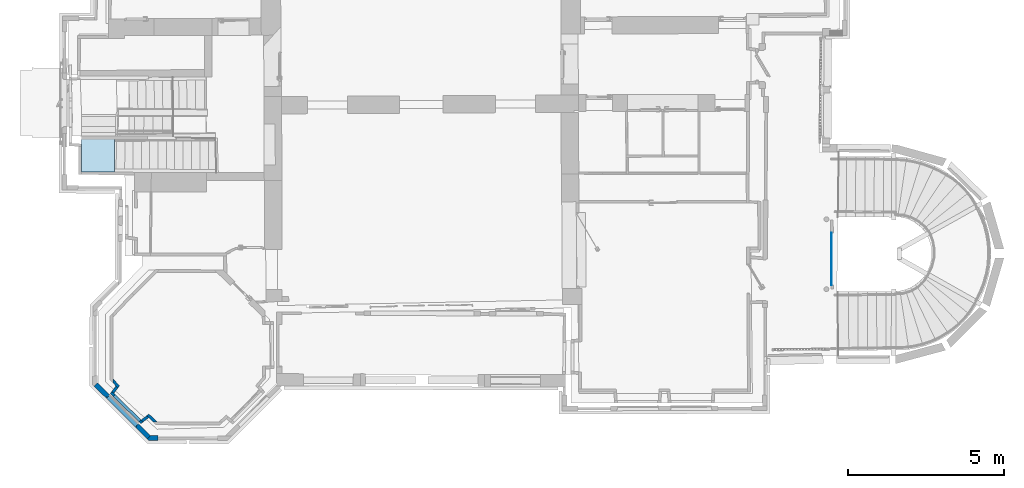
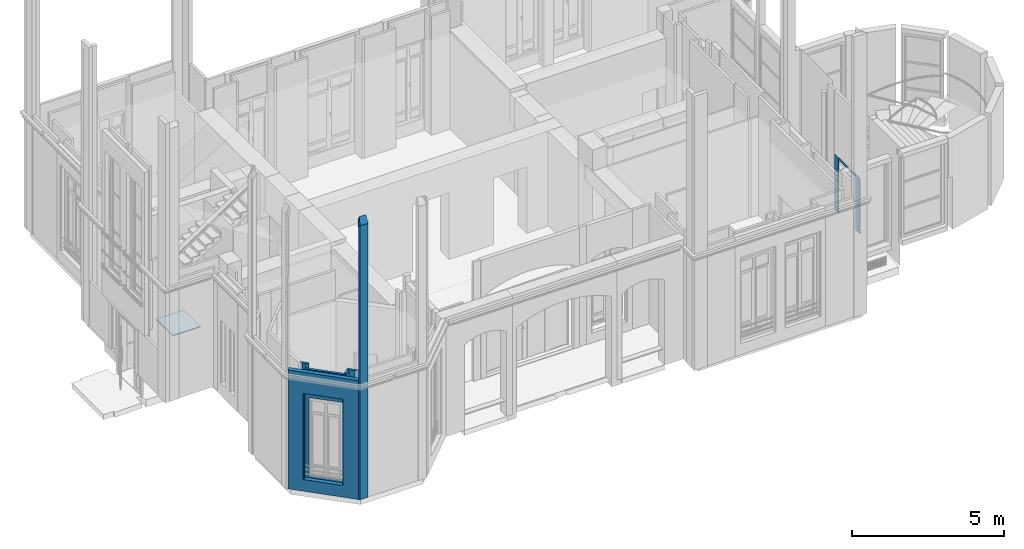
# One storey, part 3 of 97: 7 walls, 3 plates, 1 slab, 2 openings, 4 elements without a shape of their own.
"""IFC2X3 building model written with IfcOpenShell, lengths in centimetres."""

from ifc_helpers import new_model, entity, si_unit, converted_unit, direction, frame, origin, origin_with_axes, origin_2d_with_axis, place, context, subcontext, project, spatial, polyline, rectangle, outline, extrude, clip, bounded_halfspace, faceted_brep, shape, source, transform, mapped, material, layer, layer_set, layer_usage, type_object, element, aggregate, save


model = new_model("IFC2X3")

# Units and contexts
model_context = context("Model", 3, precision=0.0001, world=origin(), true_north=direction((0.225632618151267, 0.974212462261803, 0.0)))
body_context = subcontext(model_context, "Body", "Model", "MODEL_VIEW")
footprint_context = subcontext(model_context, "FootPrint", "Model", "MODEL_VIEW")
profile_context = subcontext(model_context, "Profile", "Model", "MODEL_VIEW")
ifc_project = project(units=[si_unit("LENGTHUNIT", "METRE", prefix="CENTI"), si_unit("AREAUNIT", "SQUARE_METRE", prefix="CENTI"), si_unit("VOLUMEUNIT", "CUBIC_METRE", prefix="CENTI"), converted_unit("PLANEANGLEUNIT", "DEGREE", entity("IfcRatioMeasure", 0.0174532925), si_unit("PLANEANGLEUNIT", "RADIAN"), dimensions=[0, 0, 0, 0, 0, 0, 0])], contexts=[model_context])

# Site, building, storey
site_placement = place(None, origin_with_axes())
site = spatial("IfcSite", under=ifc_project, at=site_placement, Name="Default Site", CompositionType="ELEMENT")
building_placement = place(site_placement, origin_with_axes())
building = spatial("IfcBuilding", under=site, at=building_placement, Name="Default Building", CompositionType="ELEMENT")
storey_placement = place(building_placement, origin_with_axes())
storey = spatial("IfcBuildingStorey", under=building, at=storey_placement, Name="Rez-de-chaussée", CompositionType="ELEMENT", Elevation=0.0)

# Assembly, plate
building_element_proxy_type = type_object("IfcBuildingElementProxyType", Name="Type Object", PredefinedType="NOTDEFINED")
assembly_1_placement = place(storey_placement, frame((1100.2692355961, -615.980512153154, 0.0), z_axis=(0.0, 0.0, 1.0), x_axis=(0.00608450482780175, -0.999981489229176, 0.0)))
assembly_1 = element("IfcElementAssembly", 1, at=assembly_1_placement, inside=storey, type_object=building_element_proxy_type, Name="Panneau 1528097", ObjectType="Precast panel", PredefinedType="USERDEFINED")
ifc_material_1 = material(Name="Aluminium mat")
shared_shape_1 = source(origin_with_axes(), body_context, "Body", "Brep", [
    faceted_brep([(31.4999997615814, 221.600008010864, -0.999999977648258), (31.4999997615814, 0.0, -0.999999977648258), (0.0, 0.0, -0.999999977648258), (1.11022302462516e-14, 221.600008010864, -0.999999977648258), (1.11022302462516e-14, 221.600008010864, 0.999999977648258), (0.0, 0.0, 0.999999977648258), (31.4999997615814, 0.0, 0.999999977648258), (31.4999997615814, 221.600008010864, 0.999999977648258), (-6.23692995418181e-22, 3.12472174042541e-38, -0.999999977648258), (-6.23692995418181e-22, 3.12472174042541e-38, 0.999999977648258)], [[[0, 1, 2, 3]], [[4, 5, 6, 7]], [[3, 8, 9, 4]], [[2, 1, 6, 5]], [[1, 0, 7, 6]], [[0, 3, 4, 7]]]),
])
plate_1_placement = place(assembly_1_placement, frame((31.4999997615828, 1.99999997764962, 221.600008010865), z_axis=(6.33174068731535e-17, 1.0, 0.0), x_axis=(0.0, 0.0, 1.0)))
plate_1 = element("IfcPlate", 2, at=plate_1_placement, material=ifc_material_1, Name="4294967230", context=body_context, shape_type="MappedRepresentation", body=[
    mapped(shared_shape_1, transform((-221.600008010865, -31.4999997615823, -0.999999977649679), x_axis=(0.0, 1.0, 0.0), y_axis=(1.0, 0.0, 0.0), z_axis=(0.0, 0.0, -1.0), scale=1.0, scale2=1.0, scale3=1.0, uniform=False)),
])
aggregate(assembly_1, [plate_1])

assembly_2_placement = place(storey_placement, frame((1099.61206217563, -507.994610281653, 0.0), z_axis=(0.0, 0.0, 1.0), x_axis=(-0.006011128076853, 0.999981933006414, 0.0)))
assembly_2 = element("IfcElementAssembly", 3, at=assembly_2_placement, inside=storey, type_object=building_element_proxy_type, Name="Panneau 1528096", ObjectType="Precast panel", PredefinedType="USERDEFINED")
shared_shape_2 = source(origin_with_axes(), body_context, "Body", "Brep", [
    faceted_brep([(27.5000005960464, 221.600008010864, -0.999999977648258), (27.5000005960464, 0.0, -0.999999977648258), (0.0, 0.0, -0.999999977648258), (1.11022302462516e-14, 221.600008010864, -0.999999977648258), (1.11022302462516e-14, 221.600008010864, 0.999999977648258), (0.0, 0.0, 0.999999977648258), (27.5000005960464, 0.0, 0.999999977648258), (27.5000005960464, 221.600008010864, 0.999999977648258), (-6.23692995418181e-22, 3.12472174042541e-38, -0.999999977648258), (-6.23692995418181e-22, 3.12472174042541e-38, 0.999999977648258), (27.5000005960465, 221.600008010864, -0.999999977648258), (27.5000005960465, 221.600008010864, 0.999999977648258)], [[[0, 1, 2, 3]], [[4, 5, 6, 7]], [[3, 8, 9, 4]], [[2, 1, 6, 5]], [[1, 10, 11, 6]], [[0, 3, 4, 7]]]),
])
plate_2_placement = place(assembly_2_placement, frame((27.5000005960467, -2.23521965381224e-08, 221.600008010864), z_axis=(7.80625564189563e-18, 1.0, 0.0), x_axis=(0.0, 0.0, 1.0)))
plate_2 = element("IfcPlate", 4, at=plate_2_placement, material=ifc_material_1, Name="4294967233", context=body_context, shape_type="MappedRepresentation", body=[
    mapped(shared_shape_2, transform((-221.600008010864, -27.5000005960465, -0.999999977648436), x_axis=(0.0, 1.0, -8.67361737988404e-19), y_axis=(1.0, 0.0, 0.0), z_axis=(0.0, -8.67361737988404e-19, -1.0), scale=1.0, scale2=1.0, scale3=1.0, uniform=False)),
])
aggregate(assembly_2, [plate_2])

assembly_3_placement = place(storey_placement, frame((1099.61221443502, -507.994609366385, 212.999999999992), z_axis=(0.0, 0.0, 1.0), x_axis=(0.00616533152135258, -0.999980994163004, 0.0)))
assembly_3 = element("IfcElementAssembly", 5, at=assembly_3_placement, inside=storey, type_object=building_element_proxy_type, Name="Panneau 1528098", ObjectType="Precast panel", PredefinedType="USERDEFINED")
shared_shape_3 = source(origin_with_axes(), body_context, "Body", "Brep", [
    faceted_brep([(108.000004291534, 10.0000001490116, -0.999999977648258), (108.000004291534, 0.0, -0.999999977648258), (0.0, 0.0, -0.999999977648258), (0.0, 10.0000001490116, -0.999999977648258), (0.0, 10.0000001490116, 0.999999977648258), (0.0, 0.0, 0.999999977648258), (108.000004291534, 0.0, 0.999999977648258), (108.000004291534, 10.0000001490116, 0.999999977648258)], [[[0, 1, 2, 3]], [[4, 5, 6, 7]], [[3, 2, 5, 4]], [[2, 1, 6, 5]], [[1, 0, 7, 6]], [[0, 3, 4, 7]]]),
])
plate_3_placement = place(assembly_3_placement, frame((108.000004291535, 1.99999997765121, 10.0000001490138), z_axis=(9.36750677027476e-17, 0.999999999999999, 0.0), x_axis=(0.0, 0.0, 0.999999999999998)))
plate_3 = element("IfcPlate", 6, at=plate_3_placement, material=ifc_material_1, Name="4294967229", context=body_context, shape_type="MappedRepresentation", body=[
    mapped(shared_shape_3, transform((-10.0000001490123, -108.000004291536, -0.999999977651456), x_axis=(0.0, 1.0, -8.67361737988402e-19), y_axis=(1.0, 0.0, 0.0), z_axis=(0.0, -8.67361737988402e-19, -1.0), scale=1.0, scale2=1.0, scale3=1.0, uniform=False)),
])
aggregate(assembly_3, [plate_3])

# Stair, slab
stair_placement = place(storey_placement, frame((-869.486892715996, -231.842367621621, 0.0), z_axis=(0.0, 0.0, 1.0), x_axis=(1.0, 0.0, 0.0)))
stair = element("IfcStair", 7, at=stair_placement, inside=storey, Name="Escalier 12888", ShapeType="NOTDEFINED")
ifc_material_2 = material(Name="Épicéa")
slab_placement = place(stair_placement, frame((-324.860202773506, 55.8578657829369, 214.1841173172), z_axis=(0.0, 0.0, 1.0), x_axis=(0.999995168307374, -0.00310859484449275, 0.0)))
slab = element("IfcSlab", 8, at=slab_placement, material=ifc_material_2, Name="4294967267", PredefinedType="LANDING", context=body_context, shape_type="Brep", body=[
    faceted_brep([(0.0, 0.0, -4.44089209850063e-14), (-105.898796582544, 0.0, -4.44089209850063e-14), (-105.743119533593, -108.982283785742, -4.44089209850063e-14), (-6.6512990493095e-05, -109.961492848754, -4.44089209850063e-14), (-105.743119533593, -108.982283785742, -2.9999971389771), (-105.898796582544, 0.0, -2.9999971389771), (0.0, 0.0, -2.9999971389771), (-6.6512990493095e-05, -109.961492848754, -2.9999971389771), (-6.65084996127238e-05, -109.961492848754, -4.44089209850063e-14), (-4.49088037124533e-09, 2.71623918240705e-15, -2.9999971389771), (-3.39625271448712e-19, 5.99715828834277e-09, -4.44089209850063e-14), (-105.898796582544, -5.99715828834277e-09, -2.9999971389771), (-105.898796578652, 5.55893076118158e-12, -4.44089209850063e-14), (-105.743119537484, -108.982283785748, -2.9999971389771), (-105.743119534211, -108.982283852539, -4.44089209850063e-14), (-6.6512371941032e-05, -109.961492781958, -2.9999971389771)], [[[0, 1, 2]], [[2, 3, 0]], [[4, 5, 6]], [[6, 7, 4]], [[6, 0, 8]], [[3, 7, 9]], [[5, 1, 10]], [[0, 6, 11]], [[4, 2, 12]], [[1, 5, 13]], [[7, 3, 14]], [[2, 4, 15]]]),
])
aggregate(stair, [slab])

# Wall, opening
ifc_material_3 = material(Name="<aucun>")
ifc_layer_1 = layer(ifc_material_3, 9.0)
ifc_layer_set_1 = layer_set([ifc_layer_1], Name="default")
ifc_layer_usage_1 = layer_usage(ifc_layer_set_1, "AXIS2", "POSITIVE", -4.5)
wall_type_1 = type_object("IfcWallType", Name="default 90", PredefinedType="NOTDEFINED", material=ifc_layer_set_1)
wall_1_placement = place(storey_placement, frame((-1109.05412173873, -1085.01092477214, 0.0128503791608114), z_axis=(0.0, 0.0, 1.0), x_axis=(-0.715943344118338, 0.698158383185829, 0.0)))
wall_1 = element("IfcWallStandardCase", 9, at=wall_1_placement, inside=storey, type_object=wall_type_1, material=ifc_layer_usage_1, Name="Enveloppe 664003", context=body_context, shape_type="SweptSolid", body=[
    extrude(outline(polyline([(133.862874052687, 4.49999999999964), (-3.92409617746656, 4.49999999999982), (-4.9921700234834, -3.27517469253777), (3.92409617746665, -4.49999999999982), (125.945024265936, -4.50000000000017), (134.871676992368, -3.35332170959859), (133.862874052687, 4.49999999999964)])), frame((0.0, 0.0, -2.71050543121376e-18), z_axis=(0.0, 0.0, 1.0), x_axis=(1.0, 0.0, 0.0)), (0.0, 0.0, 1.0), 477.795358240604),
])
opening_1_placement = place(wall_1_placement, frame((4.35566731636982, 0.0, 48.8943882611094), z_axis=(0.0, 0.0, 1.0), x_axis=(-1.0, 4.32986979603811e-15, 0.0)))
cartesian_point_1 = entity("IfcCartesianPoint", [0.0, 0.0, 316.0])
cartesian_point_2 = entity("IfcCartesianPoint", [-116.309966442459, -4.49999999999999])
element("IfcOpeningElement", 10, at=opening_1_placement, cuts=wall_1, Name="4294966451_11", ObjectType="Opening", shapes=[
    shape(body_context, "Body", "SweptSolid", [extrude(outline(polyline([(0.0, 316.0), (0.0, 0.0), (116.309966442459, 0.0), (116.309966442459, 316.0), (0.0, 316.0)])), frame((0.0, -14.5, 0.0), z_axis=(0.0, 1.0, 0.0), x_axis=(-1.0, 0.0, 0.0)), (0.0, 0.0, 1.0), 29.0)]),
    shape(profile_context, "Profile", "GeometricCurveSet", [entity("IfcGeometricCurveSet", [entity("IfcPolyline", [cartesian_point_1, entity("IfcCartesianPoint", [0.0, 0.0, 0.0]), entity("IfcCartesianPoint", [-116.309966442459, -1.77635683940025e-13, 0.0]), entity("IfcCartesianPoint", [-116.309966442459, -1.77635683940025e-13, 316.0]), cartesian_point_1])])]),
    shape(footprint_context, "FootPrint", "GeometricCurveSet", [entity("IfcGeometricCurveSet", [entity("IfcPolyline", [cartesian_point_2, entity("IfcCartesianPoint", [0.0, -4.49999999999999]), entity("IfcCartesianPoint", [-8.88178419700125e-14, 4.49999999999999]), entity("IfcCartesianPoint", [-116.309966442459, 4.49999999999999]), cartesian_point_2])])]),
])

# Walls
ifc_layer_usage_2 = layer_usage(ifc_layer_set_1, "AXIS2", "POSITIVE", -4.5)
wall_2_placement = place(storey_placement, frame((-1180.94242390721, -972.611368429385, 0.0128503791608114), z_axis=(0.0, 0.0, 1.0), x_axis=(-0.69917365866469, 0.714951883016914, 0.0)))
element("IfcWallStandardCase", 11, at=wall_2_placement, inside=storey, type_object=wall_type_1, material=ifc_layer_usage_2, Name="Enveloppe 663948", context=body_context, shape_type="SweptSolid", body=[
    extrude(outline(polyline([(30.2967052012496, -4.50000000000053), (21.0264275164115, 4.49999999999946), (-1.37298971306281, 4.49999999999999), (0.000939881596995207, -4.50000000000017), (30.2967052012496, -4.50000000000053)])), origin_with_axes(), (0.0, 0.0, 1.0), 477.795358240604),
])
ifc_layer_usage_3 = layer_usage(ifc_layer_set_1, "AXIS2", "POSITIVE", -4.5)
wall_3_placement = place(storey_placement, frame((-1202.40554281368, -994.779290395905, 0.0128503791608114), z_axis=(0.0, 0.0, 1.0), x_axis=(0.601251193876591, 0.799060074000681, 0.0)))
element("IfcWallStandardCase", 12, at=wall_3_placement, inside=storey, type_object=wall_type_1, material=ifc_layer_usage_3, Name="Enveloppe 664002", context=body_context, shape_type="SweptSolid", body=[
    extrude(outline(polyline([(4.53697497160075, 4.49999999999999), (4.53697497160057, -4.50000000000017), (25.9625652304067, -4.50000000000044), (27.3364948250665, 4.49999999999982), (4.53697497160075, 4.49999999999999)])), origin_with_axes(), (0.0, 0.0, 1.0), 477.795358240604),
])
ifc_layer_usage_4 = layer_usage(ifc_layer_set_1, "AXIS2", "POSITIVE", -4.5)
wall_4_placement = place(storey_placement, frame((-1060.99485055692, -1088.57682574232, 0.0128503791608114), z_axis=(0.0, 0.0, 1.0), x_axis=(-0.715943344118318, 0.698158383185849, 0.0)))
element("IfcWallStandardCase", 13, at=wall_4_placement, inside=storey, type_object=wall_type_1, material=ifc_layer_usage_4, Name="Enveloppe 663740", context=body_context, shape_type="SweptSolid", body=[
    extrude(outline(polyline([(37.7992405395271, 4.49999999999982), (9.26334606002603, 4.49999999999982), (2.66453525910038e-13, -4.50000000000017), (36.5629127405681, -4.50000000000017), (37.7992405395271, 4.49999999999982)])), frame((0.0, 0.0, -2.71050543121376e-18), z_axis=(0.0, 0.0, 1.0), x_axis=(1.0, 0.0, 0.0)), (0.0, 0.0, 1.0), 477.795358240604),
])
ifc_layer_usage_5 = layer_usage(ifc_layer_set_1, "AXIS2", "POSITIVE", -4.5)
wall_5_placement = place(storey_placement, frame((-1105.95762986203, -1082.60047484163, 0.0128503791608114), z_axis=(0.0, 0.0, 1.0), x_axis=(0.789096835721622, 0.614268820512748, 0.0)))
element("IfcWallStandardCase", 14, at=wall_5_placement, inside=storey, type_object=wall_type_1, material=ifc_layer_usage_5, Name="Enveloppe 663793", context=body_context, shape_type="SweptSolid", body=[
    extrude(outline(polyline([(1.77635683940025e-13, 4.49999999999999), (-1.77635683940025e-13, -4.50000000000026), (23.4429326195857, -4.50000000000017), (22.2066048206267, 4.50000000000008), (1.77635683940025e-13, 4.49999999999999)])), origin_with_axes(), (0.0, 0.0, 1.0), 477.795358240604),
])

# Wall, opening
ifc_layer_2 = layer(ifc_material_3, 15.0)
ifc_layer_set_2 = layer_set([ifc_layer_2], Name="default")
ifc_layer_usage_6 = layer_usage(ifc_layer_set_2, "AXIS2", "POSITIVE", -7.5)
wall_type_2 = type_object("IfcWallType", Name="default 150", PredefinedType="NOTDEFINED", material=ifc_layer_set_2)
wall_6_placement = place(storey_placement, frame((-1079.97185854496, -1138.95358572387, 0.0128503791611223), z_axis=(0.0, 0.0, 1.0), x_axis=(-0.708665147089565, 0.70554497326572, 0.0)))
wall_6 = element("IfcWallStandardCase", 15, at=wall_6_placement, inside=storey, type_object=wall_type_2, material=ifc_layer_usage_6, Name="Enveloppe 375460", context=body_context, shape_type="SweptSolid", body=[
    extrude(rectangle(XDim=14.9999999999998, YDim=239.996958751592, at=origin_2d_with_axis()), frame((126.094614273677, 3.5527136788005e-13, -5.42101086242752e-18), z_axis=(0.0, 0.0, 1.0), x_axis=(0.0, -1.0, 0.0)), (0.0, 0.0, 1.0), 477.795358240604),
])
opening_2_placement = place(wall_6_placement, frame((57.5235476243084, 0.0, 47.0010615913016), z_axis=(0.0, 0.0, 1.0), x_axis=(1.0, 3.05311331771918e-15, 0.0)))
cartesian_point_3 = entity("IfcCartesianPoint", [0.0, 0.0, 346.194533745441])
cartesian_point_4 = entity("IfcCartesianPoint", [136.26027433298, 7.49999999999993])
element("IfcOpeningElement", 16, at=opening_2_placement, cuts=wall_6, Name="Baie 379601", ObjectType="Opening", shapes=[
    shape(body_context, "Body", "Brep", [faceted_brep([(2.49209754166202e-05, 27.499996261, 346.194544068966), (136.260241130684, 27.4999972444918, 346.194544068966), (136.260241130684, 27.4999972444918, -3.65581431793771e-07), (2.49209754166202e-05, 27.499996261, -3.65581431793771e-07), (2.99998047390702, -27.4999643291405, -3.65581431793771e-07), (133.260291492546, -27.4999633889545, -3.65581431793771e-07), (133.260291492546, -27.4999633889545, 346.194544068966), (2.99998047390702, -27.4999643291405, 346.194544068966), (2.99998025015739, 3.49996110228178, 346.194544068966), (2.99998025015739, 3.49996110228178, -3.65581431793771e-07), (2.99999644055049, 3.4999611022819, -3.65581431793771e-07), (2.99999644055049, 3.4999611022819, 346.194544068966), (1.03507918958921e-05, 3.49996108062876, 346.194544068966), (1.03507918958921e-05, 3.49996108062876, -3.65581431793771e-07), (1.03507913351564e-05, 3.50003876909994, -3.65581431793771e-07), (1.03507912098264e-05, 3.50003876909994, 346.194544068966), (1.01775655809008e-05, 27.4999962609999, 346.194544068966), (1.01775657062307e-05, 27.4999962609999, -3.65581431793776e-07), (133.260291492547, -27.5000167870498, -3.65581431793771e-07), (136.260241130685, 27.4999909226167, -3.65581431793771e-07), (136.260293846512, 3.49996584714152, -3.65581431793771e-07), (133.260240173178, 3.4999762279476, -3.65581431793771e-07), (133.260291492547, -27.5000167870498, 346.194544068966), (133.260291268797, 3.49997622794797, -3.65581431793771e-07), (133.260291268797, 3.49997622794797, 346.194544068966), (133.260240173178, 3.4999762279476, 346.194544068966), (136.260293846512, 3.49997624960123, -3.65581431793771e-07), (136.260293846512, 3.49997624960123, 346.194544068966), (136.260293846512, 3.49996584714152, 346.194544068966), (136.260293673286, 27.4999909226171, -3.65581431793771e-07), (136.260293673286, 27.4999909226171, 346.194544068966), (136.260241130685, 27.4999909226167, 346.194544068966), (1.03507913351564e-05, 3.50003876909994, 346.194544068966)], [[[0, 1, 2, 3]], [[4, 5, 6, 7]], [[4, 7, 8, 9]], [[10, 11, 12, 13]], [[14, 15, 16, 17]], [[18, 4, 10, 14, 3, 19, 20, 21]], [[22, 18, 23, 24]], [[25, 21, 26, 27]], [[28, 20, 29, 30]], [[25, 28, 31, 0, 32, 11, 7, 22]]])]),
    shape(profile_context, "Profile", "GeometricCurveSet", [entity("IfcGeometricCurveSet", [entity("IfcPolyline", [cartesian_point_3, entity("IfcCartesianPoint", [0.0, 0.0, 0.0]), entity("IfcCartesianPoint", [136.26027433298, 0.0, 0.0]), entity("IfcCartesianPoint", [136.26027433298, 0.0, 346.194533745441]), cartesian_point_3])])]),
    shape(footprint_context, "FootPrint", "GeometricCurveSet", [entity("IfcGeometricCurveSet", [entity("IfcPolyline", [cartesian_point_4, entity("IfcCartesianPoint", [0.0, 7.49999999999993]), entity("IfcCartesianPoint", [0.0, -7.49999999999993]), entity("IfcCartesianPoint", [136.26027433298, -7.49999999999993]), cartesian_point_4])])]),
])

# Wall
ifc_layer_usage_7 = layer_usage(ifc_layer_set_2, "AXIS2", "POSITIVE", -7.5)
wall_7_placement = place(storey_placement, frame((-1054.78398994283, -1137.10807759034, 0.0128503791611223), z_axis=(0.0, 0.0, 1.0), x_axis=(-0.999937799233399, 0.0111533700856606, 0.0)))
solid_1 = clip(clip(clip(clip(clip(clip(clip(clip(extrude(outline(polyline([(34.765517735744, 3.24735407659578), (30.3976963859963, 7.50000000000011), (-3.5527136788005e-13, 7.50000000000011), (-1.77635683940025e-13, 5.5596893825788), (-0.100323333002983, 5.55392894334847), (-0.0461977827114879, -3.44074759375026), (1.49331569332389e-07, -3.44041459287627), (-1.77635683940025e-13, -7.50000000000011), (30.3976963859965, -7.50000000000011), (30.3976963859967, -1.23876202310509), (34.765517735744, 3.24735407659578)])), frame((0.0, 0.0, -5.42101086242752e-18), z_axis=(0.0, 0.0, 1.0), x_axis=(1.0, 0.0, 0.0)), (0.0, 0.0, 1.0), 1126.82932280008), bounded_halfspace(frame((30.3976963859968, -1.23876202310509, 1088.89752380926), z_axis=(0.0, 0.0, 1.0), x_axis=(-1.25437854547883e-14, -1.0, 0.0)), True, frame((30.3976963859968, -1.23876202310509, 1088.89752380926), z_axis=(0.0, 0.0, 1.0), x_axis=(1.0, 0.0, 0.0)), polyline([(-5.70562755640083, -6.26123797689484), (-5.44989092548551, -5.59749162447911), (0.0, 0.0), (-1.77635683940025e-13, -6.2612379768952), (-5.70562755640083, -6.26123797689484)]))), bounded_halfspace(frame((24.9458493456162, -6.84133060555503, 1088.89752380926), z_axis=(0.0, 0.0, 1.0), x_axis=(-0.359529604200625, -0.933133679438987, 0.0)), True, frame((24.9458493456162, -6.84133060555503, 1088.89752380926), z_axis=(0.0, 0.0, 1.0), x_axis=(1.0, 0.0, 0.0)), polyline([(-0.644287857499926, -0.6586693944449), (0.0, 0.0), (-0.253780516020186, -0.6586693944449), (-0.644287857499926, -0.6586693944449)]))), bounded_halfspace(frame((0.0, 5.5596893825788, 1103.25004501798), z_axis=(0.00610944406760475, -0.87193983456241, -0.489574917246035), x_axis=(0.161287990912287, 0.48403310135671, -0.860057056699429)), True, frame((0.0, 5.5596893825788, 1103.25004501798), z_axis=(0.0, 0.0, 1.0), x_axis=(1.0, 0.0, 0.0)), polyline([(0.0, 0.0), (28.5353757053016, 0.354387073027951), (28.771354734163, 1.06257161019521), (27.8740347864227, 1.9403106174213), (-3.5527136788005e-13, 1.94031061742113), (0.0, 0.0)]))), bounded_halfspace(frame((-0.0999673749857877, 5.55393291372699, 1103.25904986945), z_axis=(0.00610944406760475, -0.87193983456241, -0.489574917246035), x_axis=(-0.999978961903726, -0.00639424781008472, -0.00109057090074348)), True, frame((-0.0999673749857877, 5.55393291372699, 1103.25904986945), z_axis=(0.0, 0.0, 1.0), x_axis=(1.0, 0.0, 0.0)), polyline([(0.00107559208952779, 6.19363301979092e-05), (0.0999673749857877, 0.00575646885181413), (0.00107559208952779, 6.19363301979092e-05)]))), bounded_halfspace(frame((24.9478054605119, -6.83625364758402, 1125.65102043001), z_axis=(-0.610470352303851, -0.626057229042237, -0.485158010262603), x_axis=(-0.714860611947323, 0.699261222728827, -0.00283687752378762)), True, frame((24.9478054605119, -6.83625364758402, 1125.65102043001), z_axis=(0.0, 0.0, 1.0), x_axis=(1.0, 0.0, 0.0)), polyline([(-1.77635683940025e-13, 0.0), (5.44989092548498, 5.59749162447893), (5.4498909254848, 11.8676623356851), (4.81267929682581, 12.4909689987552), (-1.77635683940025e-13, 0.0)]))), bounded_halfspace(frame((33.5245555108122, 1.97278257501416, 1103.49161626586), z_axis=(-0.610470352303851, -0.626057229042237, -0.485158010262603), x_axis=(0.338444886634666, 0.347611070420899, -0.874426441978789)), True, frame((33.5245555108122, 1.97278257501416, 1103.49161626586), z_axis=(0.0, 0.0, 1.0), x_axis=(1.0, 0.0, 0.0)), polyline([(-3.12685912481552, 3.05862611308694), (1.77635683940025e-13, 0.0), (1.24096222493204, 1.27457150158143), (-3.07321842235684, 5.47499117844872), (-3.12685912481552, 5.33577052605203), (-3.12685912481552, 3.05862611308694)]))), bounded_halfspace(frame((30.3976963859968, -1.23876202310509, 1111.57035643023), z_axis=(-0.610470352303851, -0.626057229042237, -0.485158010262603), x_axis=(-1.55717452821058e-14, -0.612542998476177, 0.790437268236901)), True, frame((30.3976963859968, -1.23876202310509, 1111.57035643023), z_axis=(0.0, 0.0, 1.0), x_axis=(1.0, 0.0, 0.0)), polyline([(0.0, 0.0), (3.12685912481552, 3.21154459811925), (-1.77635683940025e-13, 6.27017071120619), (0.0, 0.0)]))), bounded_halfspace(frame((-0.0109796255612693, -3.44053706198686, 1119.27943827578), z_axis=(0.00610944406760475, -0.87193983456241, -0.489574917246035), x_axis=(0.00484344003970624, -0.489552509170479, 0.871960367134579)), True, frame((-0.0109796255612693, -3.44053706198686, 1119.27943827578), z_axis=(0.0, 0.0, 1.0), x_axis=(1.0, 0.0, 0.0)), polyline([(-0.088987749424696, 8.99446997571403), (0.0, 0.0), (0.010979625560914, 0.000135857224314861), (0.0109796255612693, 9.00022644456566), (-0.088987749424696, 8.99446997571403)])))
solid_2 = clip(clip(clip(clip(clip(clip(clip(clip(solid_1, bounded_halfspace(frame((-0.0109796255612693, -3.44053706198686, 477.795358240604), z_axis=(0.0, 0.0, -1.0), x_axis=(-0.00989057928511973, 0.999951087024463, 0.0)), True, frame((-0.0109796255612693, -3.44053706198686, 477.795358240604), z_axis=(0.0, 0.0, 1.0), x_axis=(1.0, 0.0, 0.0)), polyline([(-0.0889648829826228, 8.99447129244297), (-0.0352181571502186, -0.000210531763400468), (0.0, 0.0), (-0.0889648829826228, 8.99447129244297)]))), bounded_halfspace(frame((30.3976963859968, 5.0314086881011, 1103.4792075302), z_axis=(-0.610470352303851, -0.626057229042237, -0.485158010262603), x_axis=(-0.185806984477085, -0.482248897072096, 0.856102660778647)), True, frame((30.3976963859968, 5.0314086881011, 1103.4792075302), z_axis=(0.0, 0.0, 1.0), x_axis=(1.0, 0.0, 0.0)), polyline([(-0.637211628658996, 0.623306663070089), (-1.77635683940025e-13, 0.0), (-5.32907051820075e-13, 2.27714441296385), (-0.637211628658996, 0.623306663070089)]))), bounded_halfspace(frame((28.5353757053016, 5.91407645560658, 1104.68353892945), z_axis=(-0.610470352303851, -0.626057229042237, -0.485158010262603), x_axis=(-0.714860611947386, 0.699261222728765, -0.00283687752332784)), True, frame((28.5353757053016, 5.91407645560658, 1104.68353892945), z_axis=(0.0, 0.0, 1.0), x_axis=(1.0, 0.0, 0.0)), polyline([(0.0, 1.77635683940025e-13), (0.947926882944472, 0.011772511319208), (0.235979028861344, 0.708184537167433), (0.0, 1.77635683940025e-13)]))), bounded_halfspace(frame((24.0655792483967, -7.49999999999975, 1126.80985231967), z_axis=(0.00610944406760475, -0.87193983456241, -0.489574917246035), x_axis=(1.01949698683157e-14, -0.489584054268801, 0.871956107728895)), True, frame((24.0655792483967, -7.49999999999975, 1126.80985231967), z_axis=(0.0, 0.0, 1.0), x_axis=(1.0, 0.0, 0.0)), polyline([(-24.0655792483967, -3.5527136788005e-13), (0.0, 0.0), (4.46979645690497, 13.4140764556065), (-24.0655792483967, 13.0596893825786), (-24.0655792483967, -3.5527136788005e-13)]))), bounded_halfspace(frame((24.3015614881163, -7.49999999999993, 1126.81279716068), z_axis=(0.00610944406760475, -0.87193983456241, -0.489574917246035), x_axis=(0.185732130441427, 0.482054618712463, -0.856228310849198)), True, frame((24.3015614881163, -7.49999999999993, 1126.81279716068), z_axis=(0.0, 0.0, 1.0), x_axis=(1.0, 0.0, 0.0)), polyline([(-0.23598223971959, 1.77635683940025e-13), (0.0, 0.0), (0.646243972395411, 0.663746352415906), (5.45892326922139, 13.1547153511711), (5.18174110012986, 13.4258489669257), (4.23381421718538, 13.4140764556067), (-0.23598223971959, 1.77635683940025e-13)]))), bounded_halfspace(frame((30.3976963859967, 7.3085531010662, 1100.51462931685), z_axis=(0.00610944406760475, -0.87193983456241, -0.489574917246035), x_axis=(-0.447288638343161, 0.435494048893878, -0.781202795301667)), True, frame((30.3976963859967, 7.3085531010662, 1100.51462931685), z_axis=(0.0, 0.0, 1.0), x_axis=(1.0, 0.0, 0.0)), polyline([(0.0, 0.0), (0.0536407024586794, 0.139220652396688), (-1.77635683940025e-13, 0.191446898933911), (0.0, 0.0)]))), bounded_halfspace(frame((28.771354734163, 6.62226099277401, 1101.71662999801), z_axis=(0.00610944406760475, -0.87193983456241, -0.489574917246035), x_axis=(0.161287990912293, 0.484033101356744, -0.860057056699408)), True, frame((28.771354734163, 6.62226099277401, 1101.71662999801), z_axis=(0.0, 0.0, 1.0), x_axis=(1.0, 0.0, 0.0)), polyline([(-0.897319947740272, 0.877739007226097), (0.0, 0.0), (0.292477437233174, 0.877739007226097), (-0.897319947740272, 0.877739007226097)]))), bounded_halfspace(frame((29.7604847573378, 5.65471535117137, 1103.45218586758), z_axis=(0.00610944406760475, -0.87193983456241, -0.489574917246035), x_axis=(4.34642773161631e-13, 0.489584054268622, -0.871956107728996)), True, frame((29.7604847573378, 5.65471535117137, 1103.45218586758), z_axis=(0.0, 0.0, 1.0), x_axis=(1.0, 0.0, 0.0)), polyline([(-0.989130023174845, 0.967545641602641), (0.0, -1.77635683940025e-13), (0.637211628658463, 1.65383774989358), (0.63721162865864, 1.84528464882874), (-0.696652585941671, 1.84528464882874), (-0.989130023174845, 0.967545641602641)])))
element("IfcWallStandardCase", 17, at=wall_7_placement, inside=storey, type_object=wall_type_2, material=ifc_layer_usage_7, Name="Enveloppe 375632", context=body_context, shape_type="Clipping", body=[
    clip(clip(solid_2, bounded_halfspace(frame((24.692068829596, -7.49999999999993, 1126.82932280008), z_axis=(-0.610470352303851, -0.626057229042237, -0.485158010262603), x_axis=(-0.185806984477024, -0.482248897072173, 0.856102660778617)), True, frame((24.692068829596, -7.49999999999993, 1126.82932280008), z_axis=(0.0, 0.0, 1.0), x_axis=(1.0, 0.0, 0.0)), polyline([(0.0, 0.0), (5.70562755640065, -3.5527136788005e-13), (5.70562755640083, 6.26123797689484), (0.255736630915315, 0.663746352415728), (0.0, 0.0)]))), bounded_halfspace(frame((24.692068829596, -7.49999999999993, 1126.81767033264), z_axis=(0.00610944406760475, -0.87193983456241, -0.489574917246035), x_axis=(-0.432113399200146, -0.443816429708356, 0.785050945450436)), True, frame((24.692068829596, -7.49999999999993, 1126.81767033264), z_axis=(0.0, 0.0, 1.0), x_axis=(1.0, 0.0, 0.0)), polyline([(-0.39050734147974, 0.0), (0.0, 0.0), (0.255736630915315, 0.663746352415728), (-0.39050734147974, 0.0)]))),
])

save(model, "model.ifc")
